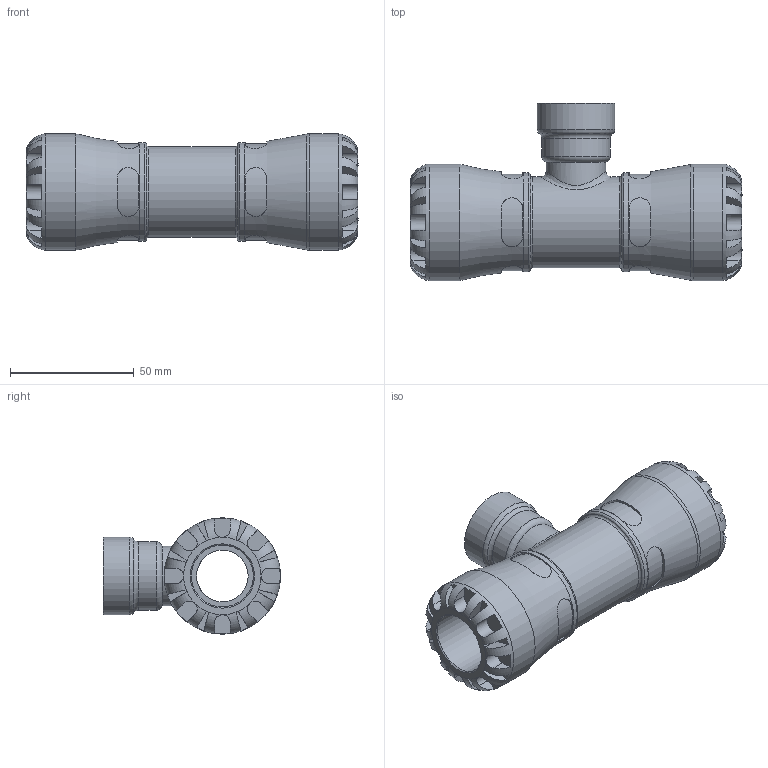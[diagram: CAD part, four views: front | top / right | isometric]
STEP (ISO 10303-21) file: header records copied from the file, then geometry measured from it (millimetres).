
FILE_DESCRIPTION(/* description */ ('PLASSON TEE WITH THREADED FEMALE OFFTAKE 25X3/4" SERIES 1'),/* implementation_level */ '2;1');
FILE_NAME(/* name */ 'C:\Dropbox\KIMPROJECTS-Inventor\99-16-3568-Processing\1014\101400025007_191400025007.ipt.stp',/* time_stamp */ '2017-01-30T09:06:19+02:00',/* author */ ('KIM'),/* organization */ (''),/* preprocessor_version */ 'ST-DEVELOPER v15.6',/* originating_system */ 'Autodesk Inventor 2015',/* authorisation */ '');
FILE_SCHEMA (('AUTOMOTIVE_DESIGN { 1 0 10303 214 3 1 1 }'));
Length unit declared in the file: millimetre
Products named in the file (1): 101400025007_191400025007
Bounding box: 134 x 71.5 x 47 mm (x, y, z)
Volume: 123514.6 mm3; surface area: 37604.2 mm2
Topology: 1 solids, 1 shells, 202 faces, 510 edges, 319 vertices
Faces by surface type: plane 118, cylinder 69, torus 12, cone 2, bspline 1
Full cylindrical faces by diameter (mm): 20.499 x1, 20.833 x1, 24.117 x2, 25 x2, 27.735 x1, 31.352 x1, 36.66 x1, 39.95 x2, 47 x2
Entity records: 7826 total; most frequent: CARTESIAN_POINT 3082, ORIENTED_EDGE 932, DIRECTION 914, EDGE_CURVE 466, AXIS2_PLACEMENT_3D 377, VERTEX_POINT 305, EDGE_LOOP 245, STYLED_ITEM 203
